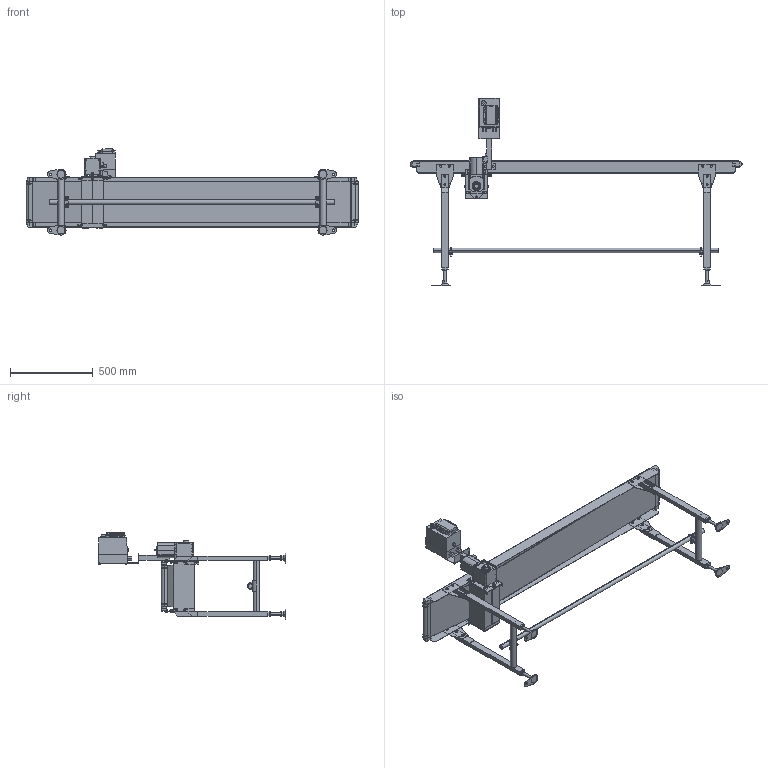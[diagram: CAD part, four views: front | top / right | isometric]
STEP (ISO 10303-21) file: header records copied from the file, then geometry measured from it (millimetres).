
FILE_DESCRIPTION (( 'STEP AP214' ), '1' );
FILE_NAME ('FSDHS-250-2000-L.STEP', '2023-04-20T23:34:32', ( '' ), ( '' ), 'SwSTEP 2.0', 'SolidWorks 2017', '' );
FILE_SCHEMA (( 'AUTOMOTIVE_DESIGN' ));
Length unit declared in the file: millimetre
Products named in the file (1): FSDHS-250-2000-L
Bounding box: 2001.4 x 1131 x 519.99 mm (x, y, z)
Volume: 18889167 mm3; surface area: 5661748.6 mm2
Topology: 48 solids, 54 shells, 2266 faces, 5572 edges, 3646 vertices
Faces by surface type: plane 1470, cylinder 733, cone 45, bspline 14, torus 4
Entity records: 94319 total; most frequent: CARTESIAN_POINT 13679, DIRECTION 11636, ORIENTED_EDGE 11124, EDGE_CURVE 5562, AXIS2_PLACEMENT_3D 3894, VECTOR 3848, LINE 3848, VERTEX_POINT 3646
